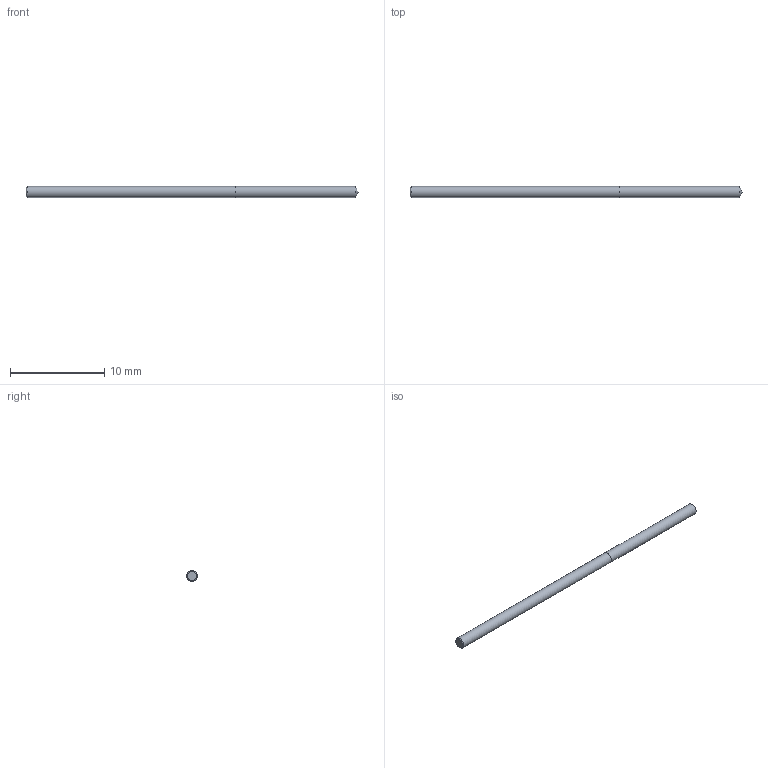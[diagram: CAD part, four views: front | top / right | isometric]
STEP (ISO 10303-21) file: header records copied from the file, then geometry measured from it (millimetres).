
FILE_DESCRIPTION (( 'STEP AP214' ), '1' );
FILE_NAME ('03-2398.STEP', '2022-06-03T07:14:13', ( 'USER' ), ( '' ), 'SwSTEP 2.0', 'SolidWorks 2018', '' );
FILE_SCHEMA (( 'AUTOMOTIVE_DESIGN' ));
Length unit declared in the file: inch
Products named in the file (1): 03-2398
Bounding box: 35.17 x 1.18 x 1.18 mm (x, y, z)
Volume: 38.3 mm3; surface area: 133.8 mm2
Topology: 2 solids, 2 shells, 7 faces, 11 edges, 7 vertices
Faces by surface type: plane 3, cylinder 2, cone 2
Full cylindrical faces by diameter (mm): 1.181 x2
Entity records: 214 total; most frequent: DIRECTION 26, CARTESIAN_POINT 18, AXIS2_PLACEMENT_3D 13, ORIENTED_EDGE 10, EDGE_LOOP 10, FACE_OUTER_BOUND 9, UNCERTAINTY_MEASURE_WITH_UNIT 7, LENGTH_MEASURE_WITH_UNIT 7
